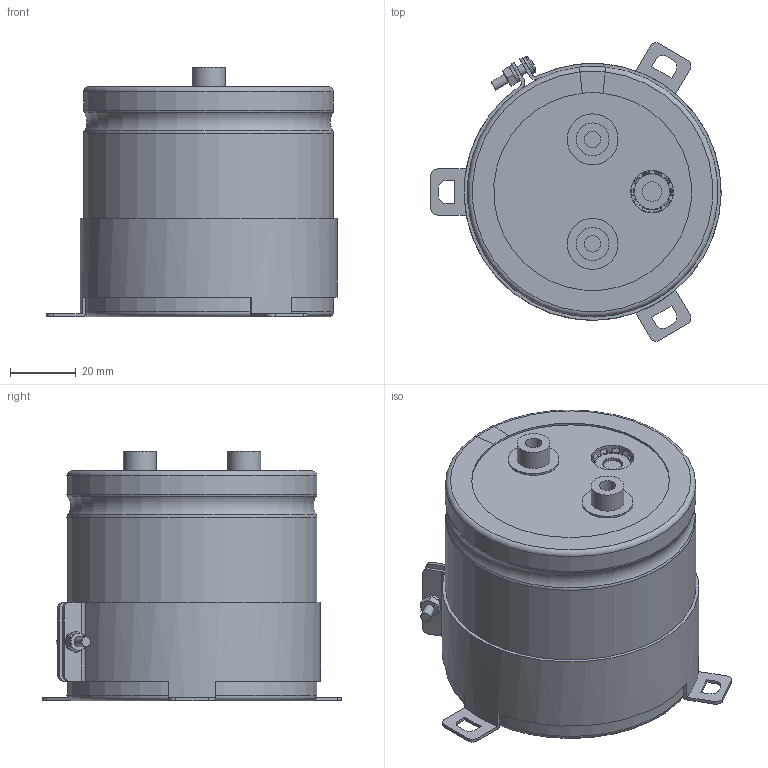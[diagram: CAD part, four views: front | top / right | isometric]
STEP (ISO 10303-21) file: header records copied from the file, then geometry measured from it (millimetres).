
FILE_DESCRIPTION(/* description */ (''),/* implementation_level */ '2;1');
FILE_NAME(/* name */ '76.2x70_Screw.stp',/* time_stamp */ '2017-09-17T13:12:35+09:00',/* author */ (''),/* organization */ (''),/* preprocessor_version */ 'ST-DEVELOPER v16',/* originating_system */ 'SIEMENS PLM Software NX 11.0',/* authorisation */ '');
FILE_SCHEMA (('AUTOMOTIVE_DESIGN { 1 0 10303 214 3 1 1 1 }'));
Length unit declared in the file: millimetre
Products named in the file (1): 76.2x70_Screw
Bounding box: 88.3 x 90.75 x 76 mm (x, y, z)
Volume: 321612.3 mm3; surface area: 80612.2 mm2
Topology: 9 solids, 9 shells, 259 faces, 642 edges, 413 vertices
Faces by surface type: plane 112, cylinder 66, torus 49, cone 31, sphere 1
Full cylindrical faces by diameter (mm): 3 x5, 5 x2, 5.5 x2, 6 x4, 8 x1, 10 x2, 13 x2, 15.5 x2, 75 x2
Entity records: 8534 total; most frequent: CARTESIAN_POINT 2182, DIRECTION 1296, ORIENTED_EDGE 1214, EDGE_CURVE 607, AXIS2_PLACEMENT_3D 541, VERTEX_POINT 408, EDGE_LOOP 317, CIRCLE 281
